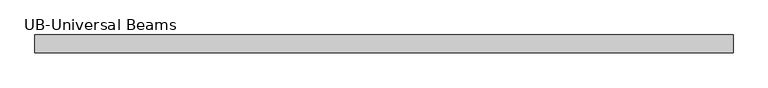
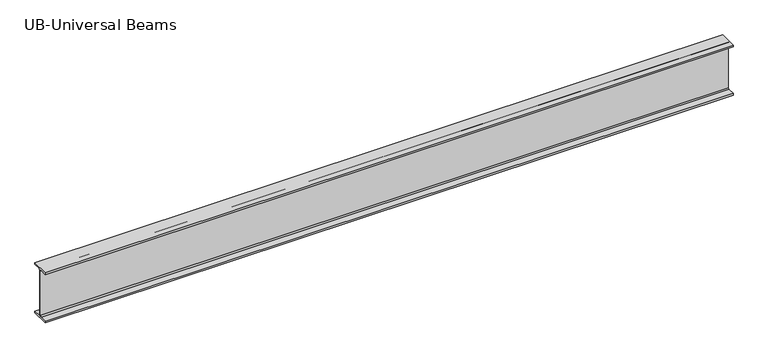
"""IFC4 building model written with IfcOpenShell, lengths in millimetres: beam geometry."""

from ifc_helpers import new_model, si_unit, point, frame, frame_2d, origin, place, context, project, spatial, polyline, circle_curve, trimmed, segment, composite_curve, outline, extrude, source, transform, mapped, element, save


def ub_universal_beams_d54c9229(model_context):
    return source(origin(), model_context, "Body", "SweptSolid", [
        extrude(outline(composite_curve([segment(polyline([(76.9, -214.0), (76.9, -229.0), (-76.9, -229.0), (-76.9, -214.0), (-14.7, -214.0)]), True, "CONTINUOUS"), segment(trimmed(circle_curve(frame_2d((-14.7, -203.8)), 10.2), [point((-14.7, -214.0))], [point((-4.5, -203.8))], True, "CARTESIAN"), True, "CONTINUOUS"), segment(polyline([(-4.5, -203.8), (-4.5, 203.8)]), True, "CONTINUOUS"), segment(trimmed(circle_curve(frame_2d((-14.7, 203.8)), 10.2), [point((-4.5, 203.8))], [point((-14.7, 214.0))], True, "CARTESIAN"), True, "CONTINUOUS"), segment(polyline([(-14.7, 214.0), (-76.9, 214.0), (-76.9, 229.0), (76.9, 229.0), (76.9, 214.0), (14.7, 214.0)]), True, "CONTINUOUS"), segment(trimmed(circle_curve(frame_2d((14.7, 203.8)), 10.2), [point((14.7, 214.0))], [point((4.5, 203.8))], True, "CARTESIAN"), True, "CONTINUOUS"), segment(polyline([(4.5, 203.8), (4.5, -203.8)]), True, "CONTINUOUS"), segment(trimmed(circle_curve(frame_2d((14.7, -203.8)), 10.2), [point((4.5, -203.8))], [point((14.7, -214.0))], True, "CARTESIAN"), True, "CONTINUOUS"), segment(polyline([(14.7, -214.0), (76.9, -214.0)]), True, "CONTINUOUS")], self_intersect=False)), frame((-2981.7, 0.0, 0.0), z_axis=(1.0, 0.0, 0.0), x_axis=(0.0, 1.0, 0.0)), (0.0, 0.0, 1.0), 5962.2),
    ])


if __name__ == "__main__":
    model = new_model("IFC4")
    model_context = context("Model", 3, world=origin())
    ifc_project = project(units=[si_unit("LENGTHUNIT", "METRE", prefix="MILLI")], contexts=[model_context])
    site = spatial("IfcSite", under=ifc_project)
    building = spatial("IfcBuilding", under=site)
    placement = place(None, origin())
    ub_universal_beams_shape = ub_universal_beams_d54c9229(model_context)
    element("IfcBeam", 1, ObjectType="UB-Universal Beams : UB 18\" x 6\" x 2 1/2\"", at=placement, inside=building, context=model_context, shape_type="MappedRepresentation", body=[
        mapped(ub_universal_beams_shape, transform((0.0, 0.0, 0.0), x_axis=(1.0, 0.0, 0.0), y_axis=(0.0, 1.0, 0.0), z_axis=(0.0, 0.0, 1.0))),
    ])
    save(model, "model.ifc")
